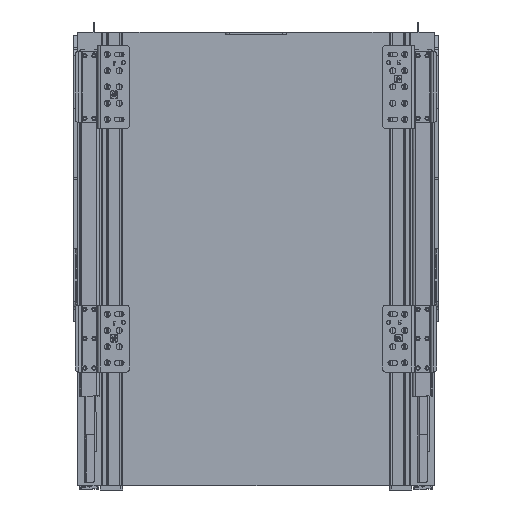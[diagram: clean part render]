
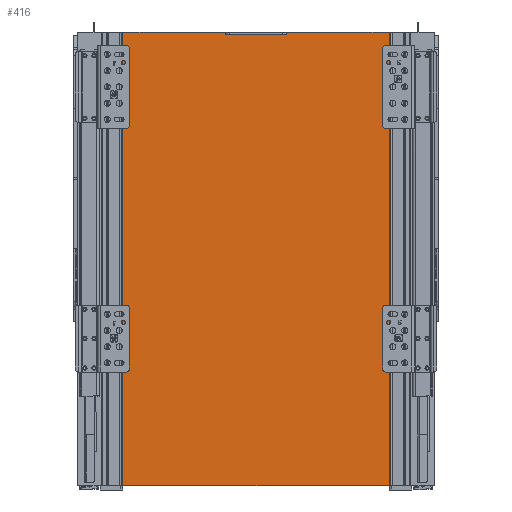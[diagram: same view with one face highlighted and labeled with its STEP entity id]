
A CAD part, front view. The second image highlights one B-rep face of the part: STEP entity #416.
In plain terms, the highlighted planar face has unit normal (0, -1, 0).
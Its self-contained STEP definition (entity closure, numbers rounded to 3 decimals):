
#68=DIRECTION('',(-1.,0.,0.));
#69=VECTOR('',#68,60.);
#70=CARTESIAN_POINT('',(30.,-16.,-2.8));
#71=LINE('',#70,#69);
#89=DIRECTION('',(-1.,0.,0.));
#90=VECTOR('',#89,122.);
#91=CARTESIAN_POINT('',(-30.,-16.,0.));
#92=LINE('',#91,#90);
#105=DIRECTION('',(-1.,0.,0.));
#106=VECTOR('',#105,122.);
#107=CARTESIAN_POINT('',(152.,-16.,0.));
#108=LINE('',#107,#106);
#126=DIRECTION('',(0.,0.,1.));
#127=VECTOR('',#126,2.8);
#128=CARTESIAN_POINT('',(-30.,-16.,-2.8));
#129=LINE('',#128,#127);
#130=DIRECTION('',(0.,0.,1.));
#131=VECTOR('',#130,2.8);
#132=CARTESIAN_POINT('',(30.,-16.,-2.8));
#133=LINE('',#132,#131);
#134=DIRECTION('',(-1.,0.,0.));
#135=VECTOR('',#134,304.);
#136=CARTESIAN_POINT('',(152.,-16.,-447.));
#137=LINE('',#136,#135);
#138=DIRECTION('',(0.,0.,1.));
#139=VECTOR('',#138,447.);
#140=CARTESIAN_POINT('',(-152.,-16.,-447.));
#141=LINE('',#140,#139);
#160=DIRECTION('',(0.,0.,1.));
#161=VECTOR('',#160,447.);
#162=CARTESIAN_POINT('',(152.,-16.,-447.));
#163=LINE('',#162,#161);
#248=CARTESIAN_POINT('',(30.,-16.,-2.8));
#249=VERTEX_POINT('',#248);
#250=CARTESIAN_POINT('',(-30.,-16.,-2.8));
#251=VERTEX_POINT('',#250);
#256=CARTESIAN_POINT('',(-30.,-16.,0.));
#257=VERTEX_POINT('',#256);
#258=CARTESIAN_POINT('',(30.,-16.,0.));
#259=VERTEX_POINT('',#258);
#260=CARTESIAN_POINT('',(152.,-16.,0.));
#261=VERTEX_POINT('',#260);
#262=CARTESIAN_POINT('',(152.,-16.,-447.));
#263=VERTEX_POINT('',#262);
#264=CARTESIAN_POINT('',(-152.,-16.,-447.));
#265=VERTEX_POINT('',#264);
#266=CARTESIAN_POINT('',(-152.,-16.,0.));
#267=VERTEX_POINT('',#266);
#397=CARTESIAN_POINT('',(-152.,-16.,0.));
#398=DIRECTION('',(0.,-1.,0.));
#399=DIRECTION('',(1.,0.,0.));
#400=AXIS2_PLACEMENT_3D('',#397,#398,#399);
#401=PLANE('',#400);
#402=ORIENTED_EDGE('',*,*,#338,.F.);
#404=ORIENTED_EDGE('',*,*,#403,.T.);
#405=ORIENTED_EDGE('',*,*,#375,.F.);
#407=ORIENTED_EDGE('',*,*,#406,.F.);
#409=ORIENTED_EDGE('',*,*,#408,.T.);
#411=ORIENTED_EDGE('',*,*,#410,.T.);
#412=ORIENTED_EDGE('',*,*,#367,.F.);
#413=ORIENTED_EDGE('',*,*,#391,.F.);
#414=EDGE_LOOP('',(#402,#404,#405,#407,#409,#411,#412,#413));
#415=FACE_OUTER_BOUND('',#414,.F.);
#338=EDGE_CURVE('',#249,#251,#71,.T.);
#367=EDGE_CURVE('',#257,#267,#92,.T.);
#375=EDGE_CURVE('',#261,#259,#108,.T.);
#391=EDGE_CURVE('',#251,#257,#129,.T.);
#403=EDGE_CURVE('',#249,#259,#133,.T.);
#406=EDGE_CURVE('',#263,#261,#163,.T.);
#408=EDGE_CURVE('',#263,#265,#137,.T.);
#410=EDGE_CURVE('',#265,#267,#141,.T.);
#416=ADVANCED_FACE('',(#415),#401,.T.);
